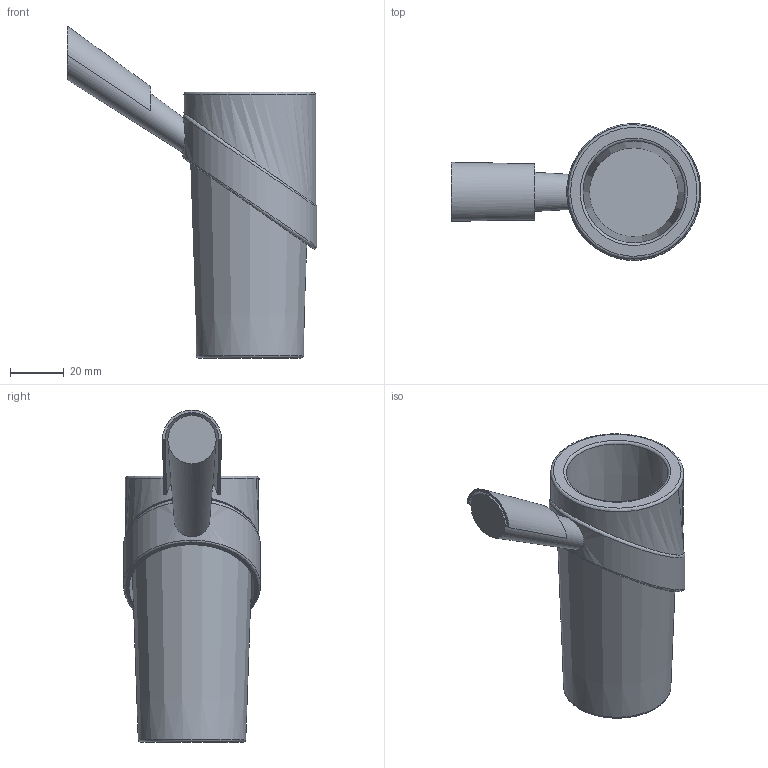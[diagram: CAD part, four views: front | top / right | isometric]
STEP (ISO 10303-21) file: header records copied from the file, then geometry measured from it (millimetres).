
FILE_DESCRIPTION(('STEP AP242'), '1');
FILE_NAME('73CR031VR', '', ('UNSPECIFIED'), ('UNSPECIFIED'), 'ASCON STEP Converter 1.6', 'ASCON Math Kernel', '');
FILE_SCHEMA(('AP242_MANAGED_MODEL_BASED_3D_ENGINEERING_MIM_LF { 1 0 10303 442 1 1 4 }'));
Length unit declared in the file: millimetre
Bounding box: 93.02 x 51 x 123.67 mm (x, y, z)
Volume: 74478.6 mm3; surface area: 37628.6 mm2
Topology: 2 solids, 2 shells, 27 faces, 52 edges, 34 vertices
Faces by surface type: plane 12, bspline 11, cone 2, torus 2
Entity records: 5155 total; most frequent: CARTESIAN_POINT 4460, ORIENTED_EDGE 76, DIRECTION 70, EDGE_LOOP 45, EDGE_CURVE 38, VERTEX_POINT 31, AXIS2_PLACEMENT_3D 30, COLOUR_RGB 29
